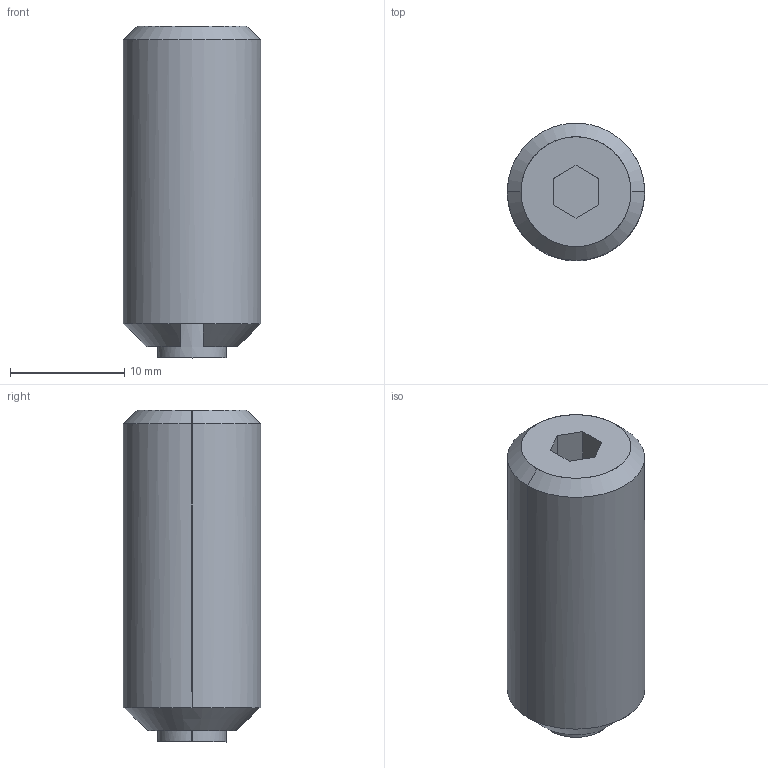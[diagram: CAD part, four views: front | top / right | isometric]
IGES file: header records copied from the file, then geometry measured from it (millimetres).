
Start section: SolidWorks IGES file using analytic representation for surfaces
Global section: file name: X:\11_SW2020-Inv2020\00_全2021-11新製品まで\l\LPLH12\lplh12.IGS; native system: SolidWorks 2020; preprocessor: SolidWorks 2020; author: ImaoCorp; date: 211025.115458; units: millimetre
Bounding box: 12 x 12 x 29 mm (x, y, z)
Surface area: 1341.8 mm2 (no closed solid volume)
Topology: 0 solids, 0 shells, 26 faces, 225 edges, 223 vertices
Faces by surface type: bspline 16, revolution 10
